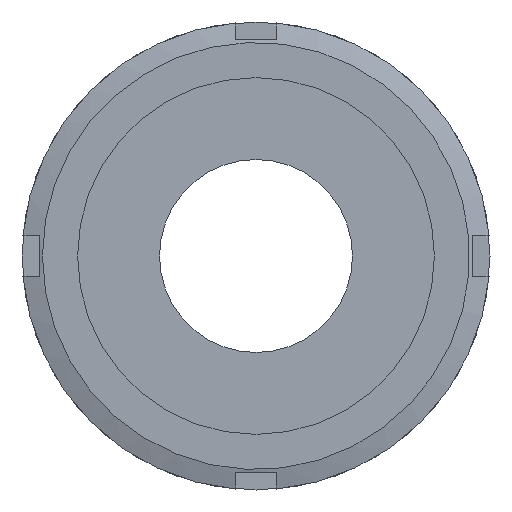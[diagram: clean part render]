
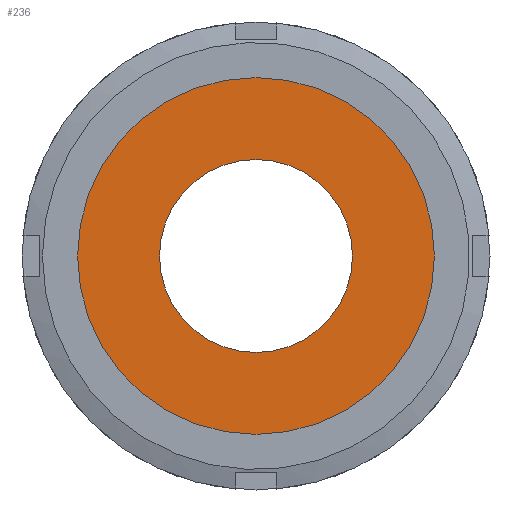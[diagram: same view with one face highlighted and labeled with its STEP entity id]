
A CAD part, left-side view. The second image highlights one B-rep face of the part: STEP entity #236.
In plain terms, the highlighted planar face has unit normal (-1, 0, 0) as drawn and (0, -1, 0) by its records, which use the part's own axes.
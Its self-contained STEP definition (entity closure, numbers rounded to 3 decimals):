
#236 = ADVANCED_FACE( '', ( #342, #343 ), #344, .T. );
#342 = FACE_OUTER_BOUND( '', #497, .T. );
#343 = FACE_BOUND( '', #498, .T. );
#344 = PLANE( '', #499 );
#497 = EDGE_LOOP( '', ( #795 ) );
#498 = EDGE_LOOP( '', ( #796 ) );
#499 = AXIS2_PLACEMENT_3D( '', #797, #798, #799 );
#795 = ORIENTED_EDGE( '', *, *, #1079, .T. );
#796 = ORIENTED_EDGE( '', *, *, #1080, .F. );
#797 = CARTESIAN_POINT( '', ( 16.5, 0., 0. ) );
#798 = DIRECTION( '', ( 0., -1., 0. ) );
#799 = DIRECTION( '', ( 0., 0., -1. ) );
#1079 = EDGE_CURVE( '', #1252, #1252, #1253, .T. );
#1080 = EDGE_CURVE( '', #1254, #1254, #1255, .T. );
#1252 = VERTEX_POINT( '', #1616 );
#1253 = CIRCLE( '', #1617, 30.5 );
#1254 = VERTEX_POINT( '', #1618 );
#1255 = CIRCLE( '', #1619, 16.5 );
#1616 = CARTESIAN_POINT( '', ( 0., 0., -30.5 ) );
#1617 = AXIS2_PLACEMENT_3D( '', #1863, #1864, #1865 );
#1618 = CARTESIAN_POINT( '', ( 0., 0., -16.5 ) );
#1619 = AXIS2_PLACEMENT_3D( '', #1866, #1867, #1868 );
#1863 = CARTESIAN_POINT( '', ( 0., 0., 0. ) );
#1864 = DIRECTION( '', ( 0., -1., 0. ) );
#1865 = DIRECTION( '', ( 0., 0., -1. ) );
#1866 = CARTESIAN_POINT( '', ( 0., 0., 0. ) );
#1867 = DIRECTION( '', ( 0., -1., 0. ) );
#1868 = DIRECTION( '', ( 0., 0., -1. ) );
